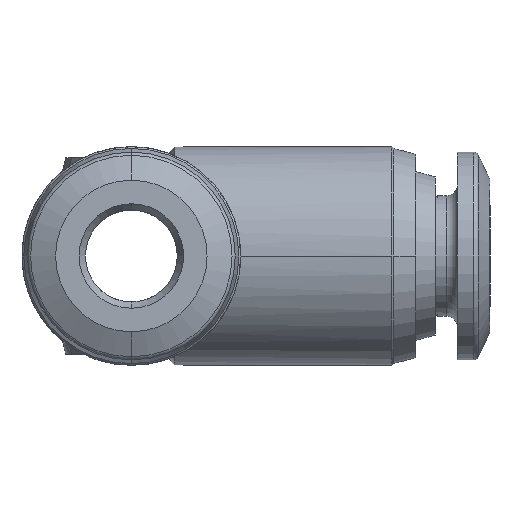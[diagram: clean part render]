
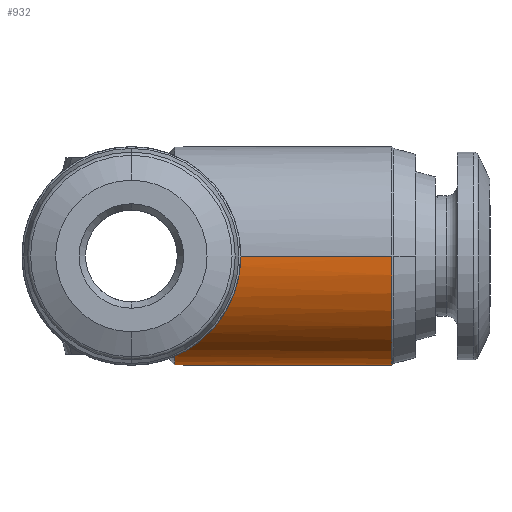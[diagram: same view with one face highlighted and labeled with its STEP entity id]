
A CAD part, left-side view. The second image highlights one B-rep face of the part: STEP entity #932.
In plain terms, the highlighted cylindrical face has radius 5 mm (diameter 10 mm), a partial arc.
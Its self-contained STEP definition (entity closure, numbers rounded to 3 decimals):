
#435 = VECTOR ( 'NONE', #929, 1000. ) ;
#734 = VERTEX_POINT ( 'NONE', #3886 ) ;
#740 = CARTESIAN_POINT ( 'NONE',  ( -1.974, -1.974, -4.594 ) ) ;
#790 = EDGE_CURVE ( 'NONE', #978, #734, #8253, .T. ) ;
#878 = CARTESIAN_POINT ( 'NONE',  ( -5., -11.918, 0. ) ) ;
#929 = DIRECTION ( 'NONE',  ( 0., 1., 0. ) ) ;
#932 = ADVANCED_FACE ( 'NONE', ( #7283 ), #4706, .T. ) ;
#978 = VERTEX_POINT ( 'NONE', #3583 ) ;
#1313 = DIRECTION ( 'NONE',  ( 0., 1., 0. ) ) ;
#1449 = DIRECTION ( 'NONE',  ( 0., 1., 0. ) ) ;
#1498 = LINE ( 'NONE', #2147, #6649 ) ;
#1581 = AXIS2_PLACEMENT_3D ( 'NONE', #5333, #1313, #6006 ) ;
#2147 = CARTESIAN_POINT ( 'NONE',  ( 5., 0., 0. ) ) ;
#2264 = LINE ( 'NONE', #2283, #435 ) ;
#2283 = CARTESIAN_POINT ( 'NONE',  ( -5., 0., 0. ) ) ;
#2387 = CARTESIAN_POINT ( 'NONE',  ( 1.974, -1.974, -4.594 ) ) ;
#2404 = CARTESIAN_POINT ( 'NONE',  ( 0., -1.974, 0. ) ) ;
#2414 = CARTESIAN_POINT ( 'NONE',  ( 3.867, -3.867, -3.781 ) ) ;
#2501 = CARTESIAN_POINT ( 'NONE',  ( 5., -5., 0. ) ) ;
#2527 = CARTESIAN_POINT ( 'NONE',  ( 5., -5., -2.06 ) ) ;
#2747 = CARTESIAN_POINT ( 'NONE',  ( 5., -11.918, 0. ) ) ;
#2886 = ORIENTED_EDGE ( 'NONE', *, *, #790, .F. ) ;
#3098 = DIRECTION ( 'NONE',  ( 1., 0., 0. ) ) ;
#3195 = CARTESIAN_POINT ( 'NONE',  ( -5., -5., 0. ) ) ;
#3302 = AXIS2_PLACEMENT_3D ( 'NONE', #2404, #7063, #3098 ) ;
#3583 = CARTESIAN_POINT ( 'NONE',  ( 5., -5., 0. ) ) ;
#3886 = CARTESIAN_POINT ( 'NONE',  ( 1.974, -1.974, -4.594 ) ) ;
#4057 = VERTEX_POINT ( 'NONE', #2747 ) ;
#4142 = CARTESIAN_POINT ( 'NONE',  ( -5., -5., 0. ) ) ;
#4652 = EDGE_LOOP ( 'NONE', ( #8650, #8645, #8450, #8517, #8343, #2886 ) ) ;
#4706 = CYLINDRICAL_SURFACE ( 'NONE', #5450, 5. ) ;
#4804 = CARTESIAN_POINT ( 'NONE',  ( -3.867, -3.867, -3.781 ) ) ;
#5198 = EDGE_CURVE ( 'NONE', #734, #6327, #7175, .T. ) ;
#5333 = CARTESIAN_POINT ( 'NONE',  ( 0., -11.918, 0. ) ) ;
#5450 = AXIS2_PLACEMENT_3D ( 'NONE', #7345, #6467, #5922 ) ;
#5676 =( BOUNDED_CURVE ( )  B_SPLINE_CURVE ( 3, ( #4142, #7424, #4804, #740 ),
 .UNSPECIFIED., .F., .T. ) 
 B_SPLINE_CURVE_WITH_KNOTS ( ( 4, 4 ),
 ( 3.142, 4.307 ),
 .UNSPECIFIED. ) 
 CURVE ( )  GEOMETRIC_REPRESENTATION_ITEM ( )  RATIONAL_B_SPLINE_CURVE ( ( 1., 0.89, 0.89, 1. ) ) 
 REPRESENTATION_ITEM ( '' )  );
#5922 = DIRECTION ( 'NONE',  ( -1., 0., 0. ) ) ;
#6006 = DIRECTION ( 'NONE',  ( -1., 0., 0. ) ) ;
#6195 = EDGE_CURVE ( 'NONE', #8235, #6524, #2264, .T. ) ;
#6327 = VERTEX_POINT ( 'NONE', #7695 ) ;
#6467 = DIRECTION ( 'NONE',  ( 0., 1., 0. ) ) ;
#6524 = VERTEX_POINT ( 'NONE', #3195 ) ;
#6649 = VECTOR ( 'NONE', #1449, 1000. ) ;
#6755 = EDGE_CURVE ( 'NONE', #4057, #8235, #7469, .T. ) ;
#7017 = EDGE_CURVE ( 'NONE', #4057, #978, #1498, .T. ) ;
#7063 = DIRECTION ( 'NONE',  ( 0., 1., 0. ) ) ;
#7175 = CIRCLE ( 'NONE', #3302, 5. ) ;
#7283 = FACE_OUTER_BOUND ( 'NONE', #4652, .T. ) ;
#7345 = CARTESIAN_POINT ( 'NONE',  ( 0., 0., 0. ) ) ;
#7424 = CARTESIAN_POINT ( 'NONE',  ( -5., -5., -2.06 ) ) ;
#7469 = CIRCLE ( 'NONE', #1581, 5. ) ;
#7695 = CARTESIAN_POINT ( 'NONE',  ( -1.974, -1.974, -4.594 ) ) ;
#8235 = VERTEX_POINT ( 'NONE', #878 ) ;
#8253 =( BOUNDED_CURVE ( )  B_SPLINE_CURVE ( 3, ( #2501, #2527, #2414, #2387 ),
 .UNSPECIFIED., .F., .T. ) 
 B_SPLINE_CURVE_WITH_KNOTS ( ( 4, 4 ),
 ( 3.142, 4.307 ),
 .UNSPECIFIED. ) 
 CURVE ( )  GEOMETRIC_REPRESENTATION_ITEM ( )  RATIONAL_B_SPLINE_CURVE ( ( 1., 0.89, 0.89, 1. ) ) 
 REPRESENTATION_ITEM ( '' )  );
#8277 = EDGE_CURVE ( 'NONE', #6524, #6327, #5676, .T. ) ;
#8343 = ORIENTED_EDGE ( 'NONE', *, *, #5198, .F. ) ;
#8450 = ORIENTED_EDGE ( 'NONE', *, *, #6195, .T. ) ;
#8517 = ORIENTED_EDGE ( 'NONE', *, *, #8277, .T. ) ;
#8645 = ORIENTED_EDGE ( 'NONE', *, *, #6755, .T. ) ;
#8650 = ORIENTED_EDGE ( 'NONE', *, *, #7017, .F. ) ;
